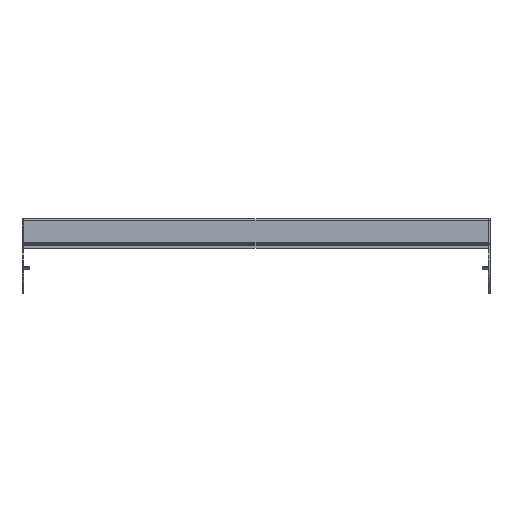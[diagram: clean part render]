
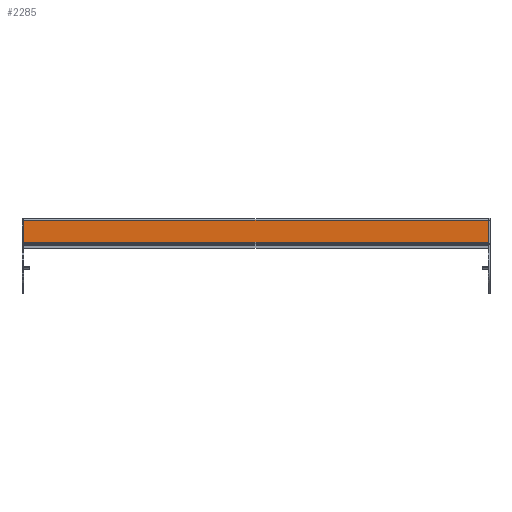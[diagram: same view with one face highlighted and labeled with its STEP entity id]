
A CAD part, top view. The second image highlights one B-rep face of the part: STEP entity #2285.
In plain terms, the highlighted planar face has unit normal (0, 0, 1) as drawn and (1, 0, 0) by its records, which use the part's own axes.
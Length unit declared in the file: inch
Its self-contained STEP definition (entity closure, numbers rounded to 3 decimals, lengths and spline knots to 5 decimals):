
#197=DIRECTION('',(0.,1.,0.));
#198=VECTOR('',#197,1.81445);
#199=CARTESIAN_POINT('',(0.683,-0.84545,-19.118));
#200=LINE('',#199,#198);
#303=DIRECTION('',(0.,1.,0.));
#304=VECTOR('',#303,1.81445);
#305=CARTESIAN_POINT('',(0.683,-0.84545,19.118));
#306=LINE('',#305,#304);
#646=DIRECTION('',(0.,0.,1.));
#647=VECTOR('',#646,38.236);
#648=CARTESIAN_POINT('',(0.683,0.969,-19.118));
#649=LINE('',#648,#647);
#659=DIRECTION('',(0.,0.,-1.));
#660=VECTOR('',#659,38.236);
#661=CARTESIAN_POINT('',(0.683,-0.84545,19.118));
#662=LINE('',#661,#660);
#1270=CARTESIAN_POINT('',(0.683,-0.84545,-19.118));
#1271=CARTESIAN_POINT('',(0.683,0.969,-19.118));
#1272=VERTEX_POINT('',#1270);
#1273=VERTEX_POINT('',#1271);
#1274=CARTESIAN_POINT('',(0.683,-0.84545,19.118));
#1275=CARTESIAN_POINT('',(0.683,0.969,19.118));
#1276=VERTEX_POINT('',#1274);
#1277=VERTEX_POINT('',#1275);
#2273=CARTESIAN_POINT('',(0.683,-0.86334,-19.118));
#2274=DIRECTION('',(1.,0.,0.));
#2275=DIRECTION('',(0.,1.,0.));
#2276=AXIS2_PLACEMENT_3D('',#2273,#2274,#2275);
#2277=PLANE('',#2276);
#2278=ORIENTED_EDGE('',*,*,#1631,.F.);
#2280=ORIENTED_EDGE('',*,*,#2279,.F.);
#2281=ORIENTED_EDGE('',*,*,#1734,.T.);
#2282=ORIENTED_EDGE('',*,*,#2266,.F.);
#2283=EDGE_LOOP('',(#2278,#2280,#2281,#2282));
#2284=FACE_OUTER_BOUND('',#2283,.F.);
#1631=EDGE_CURVE('',#1272,#1273,#200,.T.);
#1734=EDGE_CURVE('',#1276,#1277,#306,.T.);
#2266=EDGE_CURVE('',#1273,#1277,#649,.T.);
#2279=EDGE_CURVE('',#1276,#1272,#662,.T.);
#2285=ADVANCED_FACE('',(#2284),#2277,.T.);
